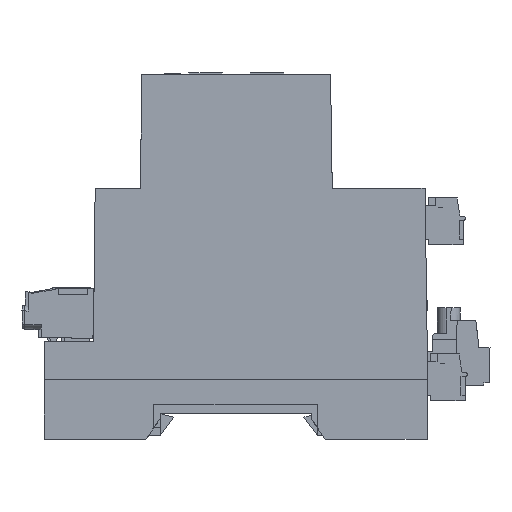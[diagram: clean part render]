
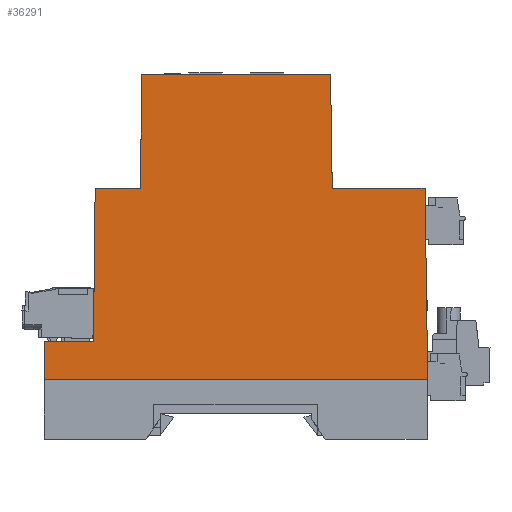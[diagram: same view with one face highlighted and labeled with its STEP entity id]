
A CAD part, left-side view. The second image highlights one B-rep face of the part: STEP entity #36291.
In plain terms, the highlighted planar face has unit normal (-1, 0, 0).
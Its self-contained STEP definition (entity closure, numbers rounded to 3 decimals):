
#1816=FACE_OUTER_BOUND('',#3815,.T.);
#3815=EDGE_LOOP('',(#24847,#24848,#24849,#24850,#24851,#24852,#24853,#24854,
#24855,#24856,#24857));
#6291=LINE('',#51582,#10967);
#6293=LINE('',#51586,#10969);
#6294=LINE('',#51588,#10970);
#6295=LINE('',#51590,#10971);
#6296=LINE('',#51592,#10972);
#6297=LINE('',#51594,#10973);
#6298=LINE('',#51596,#10974);
#6299=LINE('',#51598,#10975);
#6300=LINE('',#51600,#10976);
#6301=LINE('',#51602,#10977);
#6302=LINE('',#51603,#10978);
#10967=VECTOR('',#41868,1000.);
#10969=VECTOR('',#41872,1000.);
#10970=VECTOR('',#41873,1000.);
#10971=VECTOR('',#41874,1000.);
#10972=VECTOR('',#41875,1000.);
#10973=VECTOR('',#41876,1000.);
#10974=VECTOR('',#41877,1000.);
#10975=VECTOR('',#41878,1000.);
#10976=VECTOR('',#41879,1000.);
#10977=VECTOR('',#41880,1000.);
#10978=VECTOR('',#41881,1000.);
#15503=VERTEX_POINT('',#51579);
#15504=VERTEX_POINT('',#51581);
#15505=VERTEX_POINT('',#51585);
#15506=VERTEX_POINT('',#51587);
#15507=VERTEX_POINT('',#51589);
#15508=VERTEX_POINT('',#51591);
#15509=VERTEX_POINT('',#51593);
#15510=VERTEX_POINT('',#51595);
#15511=VERTEX_POINT('',#51597);
#15512=VERTEX_POINT('',#51599);
#15513=VERTEX_POINT('',#51601);
#19149=EDGE_CURVE('',#15504,#15503,#6291,.T.);
#19151=EDGE_CURVE('',#15503,#15505,#6293,.T.);
#19152=EDGE_CURVE('',#15506,#15505,#6294,.T.);
#19153=EDGE_CURVE('',#15506,#15507,#6295,.T.);
#19154=EDGE_CURVE('',#15507,#15508,#6296,.T.);
#19155=EDGE_CURVE('',#15508,#15509,#6297,.T.);
#19156=EDGE_CURVE('',#15509,#15510,#6298,.T.);
#19157=EDGE_CURVE('',#15510,#15511,#6299,.T.);
#19158=EDGE_CURVE('',#15511,#15512,#6300,.T.);
#19159=EDGE_CURVE('',#15512,#15513,#6301,.T.);
#19160=EDGE_CURVE('',#15504,#15513,#6302,.T.);
#24847=ORIENTED_EDGE('',*,*,#19151,.T.);
#24848=ORIENTED_EDGE('',*,*,#19152,.F.);
#24849=ORIENTED_EDGE('',*,*,#19153,.T.);
#24850=ORIENTED_EDGE('',*,*,#19154,.T.);
#24851=ORIENTED_EDGE('',*,*,#19155,.T.);
#24852=ORIENTED_EDGE('',*,*,#19156,.T.);
#24853=ORIENTED_EDGE('',*,*,#19157,.T.);
#24854=ORIENTED_EDGE('',*,*,#19158,.T.);
#24855=ORIENTED_EDGE('',*,*,#19159,.T.);
#24856=ORIENTED_EDGE('',*,*,#19160,.F.);
#24857=ORIENTED_EDGE('',*,*,#19149,.T.);
#34593=PLANE('',#38727);
#36291=ADVANCED_FACE('',(#1816),#34593,.F.);
#38727=AXIS2_PLACEMENT_3D('',#51584,#41870,#41871);
#41868=DIRECTION('',(0.,0.,-1.));
#41870=DIRECTION('center_axis',(1.,0.,0.));
#41871=DIRECTION('ref_axis',(0.,1.,0.));
#41872=DIRECTION('',(0.,-1.,0.));
#41873=DIRECTION('',(0.,0.,-1.));
#41874=DIRECTION('',(0.,0.014,1.));
#41875=DIRECTION('',(0.,1.,0.));
#41876=DIRECTION('',(0.,0.015,1.));
#41877=DIRECTION('',(0.,1.,0.));
#41878=DIRECTION('',(0.,0.015,-1.));
#41879=DIRECTION('',(0.,1.,0.));
#41880=DIRECTION('',(0.,0.011,-1.));
#41881=DIRECTION('',(0.,-1.,0.));
#51579=CARTESIAN_POINT('',(-71.5,45.,0.));
#51581=CARTESIAN_POINT('',(-71.5,45.,9.));
#51582=CARTESIAN_POINT('',(-71.5,45.,9.));
#51584=CARTESIAN_POINT('Origin',(-71.5,45.,9.));
#51585=CARTESIAN_POINT('',(-71.5,-45.,0.));
#51586=CARTESIAN_POINT('',(-71.5,45.,0.));
#51587=CARTESIAN_POINT('',(-71.5,-45.,9.));
#51588=CARTESIAN_POINT('',(-71.5,-45.,9.));
#51589=CARTESIAN_POINT('',(-71.5,-44.5,45.));
#51590=CARTESIAN_POINT('',(-71.5,-45.,9.));
#51591=CARTESIAN_POINT('',(-71.5,-22.7,45.));
#51592=CARTESIAN_POINT('',(-71.5,-22.7,45.));
#51593=CARTESIAN_POINT('',(-71.5,-22.3,71.6));
#51594=CARTESIAN_POINT('',(-71.5,-22.3,71.6));
#51595=CARTESIAN_POINT('',(-71.5,22.,71.6));
#51596=CARTESIAN_POINT('',(-71.5,22.,71.6));
#51597=CARTESIAN_POINT('',(-71.5,22.4,45.));
#51598=CARTESIAN_POINT('',(-71.5,22.4,45.));
#51599=CARTESIAN_POINT('',(-71.5,33.,45.));
#51600=CARTESIAN_POINT('',(-71.5,33.,45.));
#51601=CARTESIAN_POINT('',(-71.5,33.4,9.));
#51602=CARTESIAN_POINT('',(-71.5,33.,45.));
#51603=CARTESIAN_POINT('',(-71.5,45.,9.));
